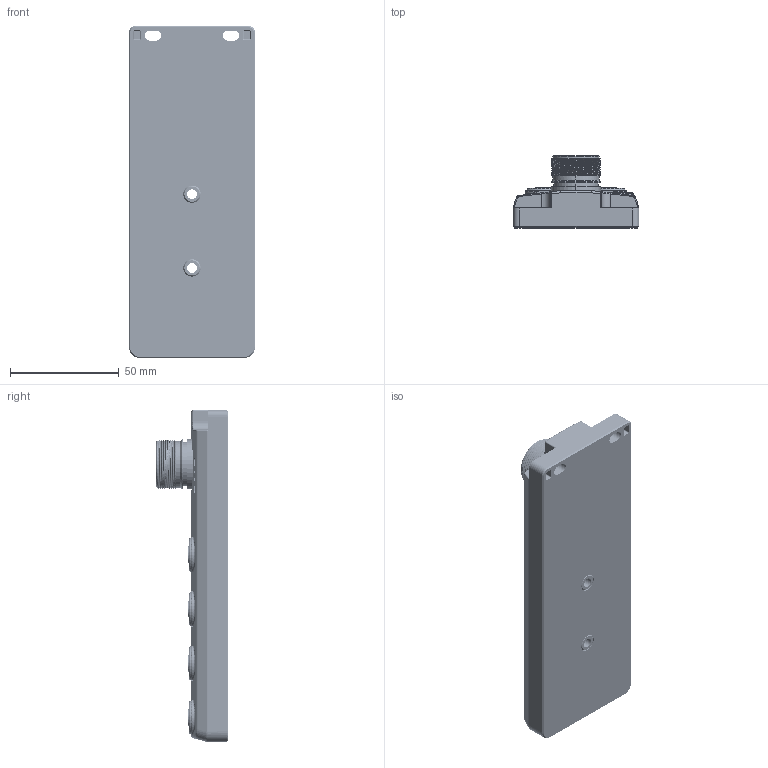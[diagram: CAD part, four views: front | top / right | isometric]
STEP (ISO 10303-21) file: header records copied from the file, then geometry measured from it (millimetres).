
FILE_DESCRIPTION((''),'2;1');
FILE_NAME('24P8CT','2022-06-01T',('PC'),(''),'PRO/ENGINEER BY PARAMETRIC TECHNOLOGY CORPORATION, 2009220','PRO/ENGINEER BY PARAMETRIC TECHNOLOGY CORPORATION, 2009220','');
FILE_SCHEMA(('CONFIG_CONTROL_DESIGN'));
Products named in the file (1): 24P8CT
Bounding box: 58 x 33 x 153 mm (x, y, z)
Volume: 134284.7 mm3; surface area: 47581.6 mm2
Topology: 1 solids, 1 shells, 3867 faces, 10550 edges, 6848 vertices
Faces by surface type: plane 1656, cylinder 1297, bspline 488, cone 239, torus 121, extrusion 57, sphere 8, revolution 1
Full cylindrical faces by diameter (mm): 1.5 x8, 1.6 x4
Entity records: 181736 total; most frequent: CARTESIAN_POINT 87189, ORIENTED_EDGE 21084, DIRECTION 17782, EDGE_CURVE 10542, VERTEX_POINT 6848, AXIS2_PLACEMENT_3D 6287, VECTOR 5207, LINE 5150
